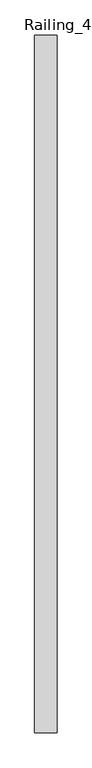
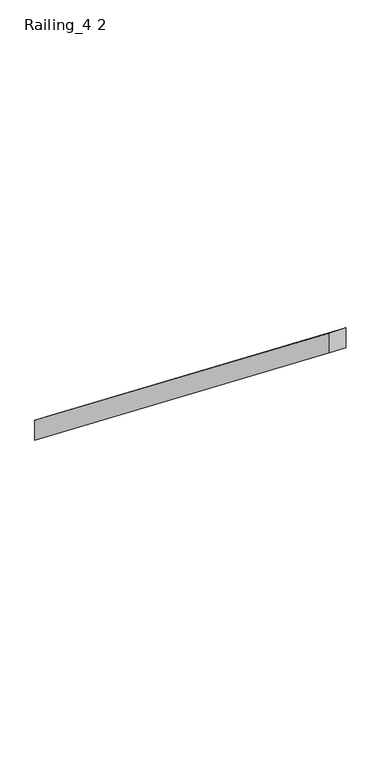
"""IFC4 building model written with IfcOpenShell, lengths in millimetres: railing geometry, Railing_4 2."""

import ifcopenshell
import ifcopenshell.guid

model = None  # the IFC model being written
_history = None  # IfcOwnerHistory: only IFC2X3 demands one
_inside = {}  # id of a spatial element -> (the spatial element, [elements in it])
_under = {}  # id of a project, library or spatial element -> (it, [spatial elements below it])
_declared = {}  # id of a project -> (the project, [libraries it declares])
_typed = {}  # id of a type object -> (the type object, [elements of that type])
_made_of = {}  # id of a material, layer set ... -> (it, [elements and type objects made of it])


def new_model(schema):
    """Start an empty IFC model of exactly this schema.

    Asked for "IFC4X3", IfcOpenShell would pick the latest addendum, in which some entities
    have other attributes; the version numbers below select the first issue.
    IFC2X3 requires an IfcOwnerHistory on every rooted entity: one is made here for all.
    """
    global model, _history
    if schema == "IFC4X3":
        model = ifcopenshell.file(schema_version=(4, 3, 0, 0))
    else:
        model = ifcopenshell.file(schema=schema)
    _inside.clear()
    _under.clear()
    _declared.clear()
    _typed.clear()
    _made_of.clear()
    _history = None
    if model.schema == "IFC2X3":
        org = make("IfcOrganization", Name="unknown")
        user = make(
            "IfcPersonAndOrganization",
            ThePerson=make("IfcPerson", FamilyName="unknown"),
            TheOrganization=org,
        )
        app = make(
            "IfcApplication",
            ApplicationDeveloper=org,
            Version="unknown",
            ApplicationFullName="unknown",
            ApplicationIdentifier="unknown",
        )
        _history = make(
            "IfcOwnerHistory",
            OwningUser=user,
            OwningApplication=app,
            ChangeAction="ADDED",
            CreationDate=0,
        )
    return model


def make(cls, **values):
    """One entity of the class cls with the attributes given. An attribute that is None is left unset."""
    return model.create_entity(
        cls, **{name: value for name, value in values.items() if value is not None}
    )


def rooted(cls, **values):
    """An entity with a GlobalId (a new one), such as an element, a storey or a relation."""
    return make(cls, GlobalId=ifcopenshell.guid.new(), OwnerHistory=_history, **values)


def si_unit(unit_type, name, prefix=None):
    """IfcSIUnit, for example si_unit("LENGTHUNIT", "METRE", prefix="MILLI")."""
    return make("IfcSIUnit", UnitType=unit_type, Prefix=prefix, Name=name)


def assignment(units):
    """IfcUnitAssignment: the units of a project."""
    return None if units is None else make("IfcUnitAssignment", Units=units)


def point(xyz):
    """IfcCartesianPoint."""
    return None if xyz is None else make("IfcCartesianPoint", Coordinates=xyz)


def direction(xyz):
    """IfcDirection."""
    return None if xyz is None else make("IfcDirection", DirectionRatios=xyz)


def frame(location, z_axis=None, x_axis=None):
    """IfcAxis2Placement3D, a coordinate frame: its origin and axes. An axis left out is left unset."""
    return make(
        "IfcAxis2Placement3D",
        Location=point(location),
        Axis=direction(z_axis),
        RefDirection=direction(x_axis),
    )


def origin():
    """The frame at (0, 0, 0) with its axes left unset."""
    return frame((0.0, 0.0, 0.0))


def place(relative_to, where):
    """IfcLocalPlacement: puts the frame where relative to a parent placement (None: the world)."""
    return make(
        "IfcLocalPlacement", PlacementRelTo=relative_to, RelativePlacement=where
    )


def context(
    kind, dimensions, precision=None, world=None, true_north=None, identifier=None
):
    """IfcGeometricRepresentationContext, for example the 3D "Model" context."""
    return make(
        "IfcGeometricRepresentationContext",
        ContextIdentifier=identifier,
        ContextType=kind,
        CoordinateSpaceDimension=dimensions,
        Precision=precision,
        WorldCoordinateSystem=world,
        TrueNorth=true_north,
    )


def project(units=None, contexts=None):
    """IfcProject with its units and contexts."""
    return rooted(
        "IfcProject",
        Name="project",
        RepresentationContexts=contexts,
        UnitsInContext=assignment(units),
    )


def spatial(cls, under=None, at=None, **own):
    """A site, building, storey or space (cls), placed at a placement, below another one or the project."""
    s = rooted(cls, ObjectPlacement=at, **own)
    if under is not None:
        _under.setdefault(under.id(), (under, []))[1].append(s)
    return s


def polyline(points):
    """IfcPolyline through the points."""
    return make("IfcPolyline", Points=[point(p) for p in points])


def outline(outer, holes=None, kind="AREA"):
    """IfcArbitraryClosedProfileDef: a profile drawn as a closed curve; with holes, ...WithVoids."""
    if holes is None:
        return make("IfcArbitraryClosedProfileDef", ProfileType=kind, OuterCurve=outer)
    return make(
        "IfcArbitraryProfileDefWithVoids",
        ProfileType=kind,
        OuterCurve=outer,
        InnerCurves=holes,
    )


def extrude(swept, where, along, depth):
    """IfcExtrudedAreaSolid: the profile swept, set in the frame where, extruded along a direction by depth."""
    return make(
        "IfcExtrudedAreaSolid",
        SweptArea=swept,
        Position=where,
        ExtrudedDirection=direction(along),
        Depth=depth,
    )


def shape(context_of_items, identifier, shape_type, items):
    """IfcShapeRepresentation: the items that make up one representation, for example the "Body"."""
    return make(
        "IfcShapeRepresentation",
        ContextOfItems=context_of_items,
        RepresentationIdentifier=identifier,
        RepresentationType=shape_type,
        Items=items,
    )


def source(mapping_origin, context_of_items, identifier, shape_type, items):
    """IfcRepresentationMap: a shape defined once, which mapped items show again and again."""
    return make(
        "IfcRepresentationMap",
        MappingOrigin=mapping_origin,
        MappedRepresentation=shape(context_of_items, identifier, shape_type, items),
    )


def transform(
    local_origin,
    x_axis=None,
    y_axis=None,
    z_axis=None,
    scale=None,
    scale2=None,
    scale3=None,
    uniform=True,
):
    """IfcCartesianTransformationOperator3D, or its non-uniform kind. x_axis, y_axis, z_axis: its Axis1, 2, 3."""
    if uniform:
        return make(
            "IfcCartesianTransformationOperator3D",
            Axis1=direction(x_axis),
            Axis2=direction(y_axis),
            LocalOrigin=point(local_origin),
            Scale=scale,
            Axis3=direction(z_axis),
        )
    return make(
        "IfcCartesianTransformationOperator3DnonUniform",
        Axis1=direction(x_axis),
        Axis2=direction(y_axis),
        LocalOrigin=point(local_origin),
        Scale=scale,
        Axis3=direction(z_axis),
        Scale2=scale2,
        Scale3=scale3,
    )


def mapped(mapping_source, mapping_target):
    """IfcMappedItem: shows the shape of a source again, moved by a transform."""
    return make(
        "IfcMappedItem", MappingSource=mapping_source, MappingTarget=mapping_target
    )


def made_of(thing, what):
    """Note that an element or type object is made of a material, layer set ...; save() writes the relation."""
    if what is not None:
        _made_of.setdefault(what.id(), (what, []))[1].append(thing)
    return thing


def element(
    cls,
    number,
    at=None,
    inside=None,
    cuts=None,
    type_object=None,
    material=None,
    context=None,
    identifier="Body",
    shape_type=None,
    held_by="IfcProductDefinitionShape",
    body=None,
    shapes=None,
    **own,
):
    """One element of the class cls, such as IfcWall. Its Tag is "e" and its number.

    at: its placement. inside: the storey or other place that contains it. cuts: it is an
    opening in that element (IfcRelVoidsElement). A single representation is given by context,
    identifier, shape_type and body (its items); several are given by shapes. held_by: the class
    of the entity that holds the representations. save() writes the other relations.
    """
    e = rooted(cls, Tag="e%d" % number, ObjectPlacement=at, **own)
    if body is not None:
        shapes = [shape(context, identifier, shape_type, body)]
    if shapes is not None:
        e.Representation = make(held_by, Representations=shapes)
    if inside is not None:
        _inside.setdefault(inside.id(), (inside, []))[1].append(e)
    if cuts is not None:
        rooted(
            "IfcRelVoidsElement", RelatingBuildingElement=cuts, RelatedOpeningElement=e
        )
    if type_object is not None:
        _typed.setdefault(type_object.id(), (type_object, []))[1].append(e)
    return made_of(e, material)


def aggregate(whole, parts):
    """IfcRelAggregates: a whole, such as a stair, and the parts it consists of."""
    return rooted("IfcRelAggregates", RelatingObject=whole, RelatedObjects=parts)


def save(model, path):
    """Write the relations noted so far, then the file.

    IfcRelAggregates (storeys below a building ...), IfcRelContainedInSpatialStructure (elements
    in a storey), IfcRelDefinesByType, IfcRelAssociatesMaterial and IfcRelDeclares: one each for
    every whole, place, type object, material and project.
    """
    for whole, parts in _under.values():
        aggregate(whole, parts)
    for where, things in _inside.values():
        rooted(
            "IfcRelContainedInSpatialStructure",
            RelatedElements=things,
            RelatingStructure=where,
        )
    for kind, things in _typed.values():
        rooted("IfcRelDefinesByType", RelatedObjects=things, RelatingType=kind)
    for what, things in _made_of.values():
        rooted("IfcRelAssociatesMaterial", RelatedObjects=things, RelatingMaterial=what)
    for by, libraries in _declared.values():
        rooted("IfcRelDeclares", RelatingContext=by, RelatedDefinitions=libraries)
    model.write(path)


def railing_4_2_3586e14e(model_context):
    return source(origin(), model_context, "Body", "SweptSolid", [
        extrude(outline(polyline([(3384.6379226, 1463.2977971), (3384.6379226, 1398.6573534), (1802.340544, 2643.6832804), (1802.340544, 2708.323724), (3384.6379226, 1463.2977971)])), frame((5054.6, 0.0, 0.0), z_axis=(1.0, 0.0, 0.0), x_axis=(0.0, 1.0, 0.0)), (0.0, 0.0, 1.0), 50.8),
    ])


if __name__ == "__main__":
    model = new_model("IFC4")
    model_context = context("Model", 3, world=origin())
    ifc_project = project(units=[si_unit("LENGTHUNIT", "METRE", prefix="MILLI")], contexts=[model_context])
    site = spatial("IfcSite", under=ifc_project)
    building = spatial("IfcBuilding", under=site)
    placement = place(None, origin())
    railing_4_2_shape = railing_4_2_3586e14e(model_context)
    element("IfcRailing", 1, ObjectType="Railing_4 2", at=placement, inside=building, context=model_context, shape_type="MappedRepresentation", body=[
        mapped(railing_4_2_shape, transform((0.0, 0.0, 0.0), x_axis=(1.0, 0.0, 0.0), y_axis=(0.0, 1.0, 0.0), z_axis=(0.0, 0.0, 1.0))),
    ])
    save(model, "model.ifc")
